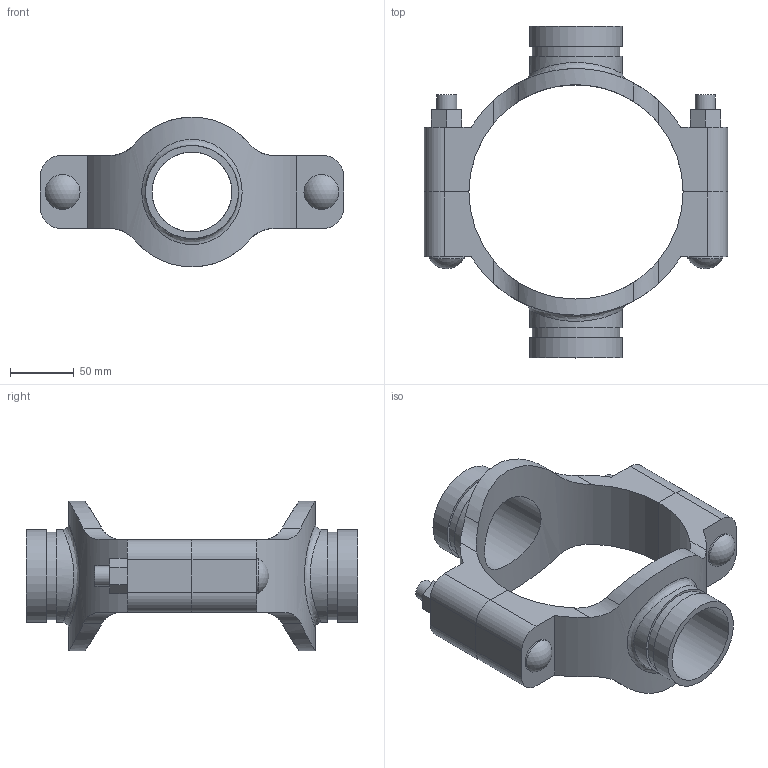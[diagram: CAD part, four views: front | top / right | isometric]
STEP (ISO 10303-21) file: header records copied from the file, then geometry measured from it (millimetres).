
FILE_DESCRIPTION(/* description */ ('VIC MECH-T BRANCH OUTLET CROSS STYLE 920N (GRVD)','CAx-IF Rec.Pracs.---Representation and Presentation of Product Manufacturing Information (PMI)---4.0---2014-10-13'),/* implementation_level */ '2;1');
FILE_NAME(/* name */ 'C:\Users\Vjadhav\AppData\Roaming\Autodesk\ApplicationPlugins\Back Up\Victaulic_IPS_Mechanical-Cross Outlet_Style 920N (OGS)\Victaulic_IPS_Mechanical-Cross Outlet_06.0x02.5x02.5 (150x65x65).stp',/* time_stamp */ '2020-08-06T19:44:50+05:00',/* author */ ('Vjadhav'),/* organization */ ('Victaulic'),/* preprocessor_version */ 'ST-DEVELOPER v17.2',/* originating_system */ 'Autodesk Inventor 2019',/* authorisation */ '');
FILE_SCHEMA (('AP242_MANAGED_MODEL_BASED_3D_ENGINEERING_MIM_LF { 1 0 10303 442 1 1 4 }'));
Length unit declared in the file: inch
Products named in the file (3): 920NG-06.0x02.5x02.5; 920G-06.0x02.5; 920G-06.0x02.5_1
Assembly tree (2 placements, depth 2):
  920NG-06.0x02.5x02.5
    920G-06.0x02.5
    920G-06.0x02.5_1
Bounding box: 238.25 x 260.6 x 117.6 mm (x, y, z)
Volume: 815835.7 mm3; surface area: 174631.3 mm2
Topology: 2 solids, 2 shells, 104 faces, 262 edges, 178 vertices
Faces by surface type: plane 54, cylinder 46, sphere 2, bspline 2
Full cylindrical faces by diameter (mm): 15.875 x4, 27.381 x2, 62.738 x2, 69.088 x2, 73.025 x4
Entity records: 4206 total; most frequent: CARTESIAN_POINT 1433, DIRECTION 532, ORIENTED_EDGE 524, EDGE_CURVE 262, AXIS2_PLACEMENT_3D 193, VERTEX_POINT 178, LINE 146, VECTOR 146
